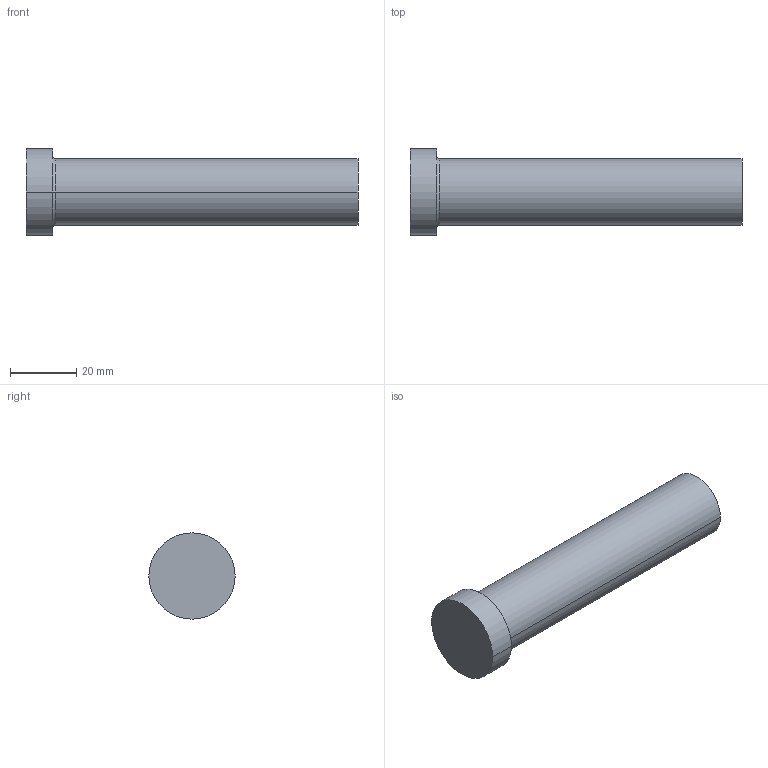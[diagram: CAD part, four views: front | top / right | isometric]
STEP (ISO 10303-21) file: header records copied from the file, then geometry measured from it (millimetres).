
FILE_DESCRIPTION (( 'STEP AP214' ), '1' );
FILE_NAME ('A-20x100.STEP', '2020-05-29T16:23:48', ( 'August' ), ( '' ), 'SwSTEP 2.0', 'SolidWorks 2018', '' );
FILE_SCHEMA (( 'AUTOMOTIVE_DESIGN' ));
Length unit declared in the file: millimetre
Products named in the file (1): A-20x100
Bounding box: 100 x 26 x 26 mm (x, y, z)
Volume: 33163.9 mm3; surface area: 7469.3 mm2
Topology: 1 solids, 1 shells, 9 faces, 16 edges, 10 vertices
Faces by surface type: cylinder 4, plane 3, torus 2
Entity records: 260 total; most frequent: DIRECTION 48, CARTESIAN_POINT 36, ORIENTED_EDGE 32, AXIS2_PLACEMENT_3D 22, EDGE_CURVE 16, CIRCLE 12, VERTEX_POINT 10, EDGE_LOOP 10
